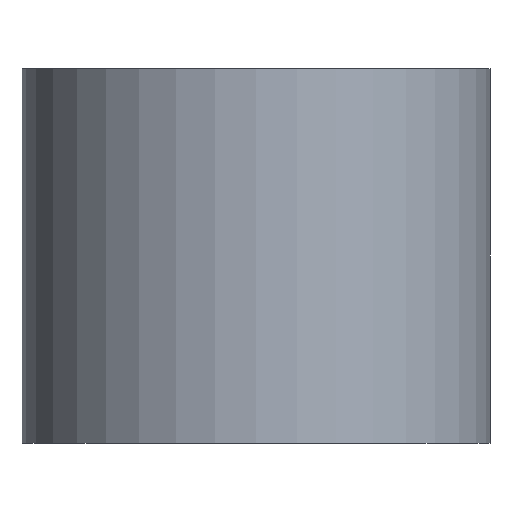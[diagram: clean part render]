
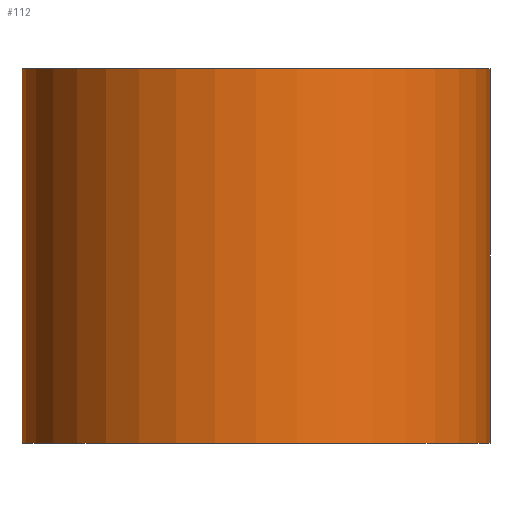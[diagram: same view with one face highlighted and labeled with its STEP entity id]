
A CAD part, front view. The second image highlights one B-rep face of the part: STEP entity #112.
In plain terms, the highlighted cylindrical face has radius 10 mm (diameter 20 mm), a partial arc.
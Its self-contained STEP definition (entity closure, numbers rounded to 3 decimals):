
#112=ADVANCED_FACE('',(#125),#119,.T.);
#119=CYLINDRICAL_SURFACE('',#254,10.);
#125=FACE_OUTER_BOUND('',#135,.T.);
#135=EDGE_LOOP('',(#177,#178,#179,#180));
#149=CIRCLE('',#250,10.);
#151=CIRCLE('',#253,10.);
#177=ORIENTED_EDGE('',*,*,#221,.T.);
#178=ORIENTED_EDGE('',*,*,#222,.F.);
#179=ORIENTED_EDGE('',*,*,#223,.F.);
#180=ORIENTED_EDGE('',*,*,#219,.T.);
#203=VERTEX_POINT('',#344);
#204=VERTEX_POINT('',#345);
#205=VERTEX_POINT('',#349);
#206=VERTEX_POINT('',#351);
#219=EDGE_CURVE('',#203,#204,#149,.T.);
#221=EDGE_CURVE('',#204,#205,#231,.T.);
#222=EDGE_CURVE('',#206,#205,#151,.T.);
#223=EDGE_CURVE('',#203,#206,#232,.T.);
#231=LINE('',#348,#235);
#232=LINE('',#352,#236);
#235=VECTOR('',#298,1.);
#236=VECTOR('',#301,1.);
#250=AXIS2_PLACEMENT_3D('',#343,#292,#293);
#253=AXIS2_PLACEMENT_3D('',#350,#299,#300);
#254=AXIS2_PLACEMENT_3D('',#353,#302,#303);
#292=DIRECTION('',(0.,0.,1.));
#293=DIRECTION('',(0.,1.,0.));
#298=DIRECTION('',(0.,0.,1.));
#299=DIRECTION('',(0.,0.,1.));
#300=DIRECTION('',(0.,1.,0.));
#301=DIRECTION('',(0.,0.,1.));
#302=DIRECTION('',(0.,0.,1.));
#303=DIRECTION('',(0.,-1.,0.));
#343=CARTESIAN_POINT('',(0.,0.,-16.));
#344=CARTESIAN_POINT('',(-10.,0.,-16.));
#345=CARTESIAN_POINT('',(10.,0.,-16.));
#348=CARTESIAN_POINT('',(10.,0.,0.));
#349=CARTESIAN_POINT('',(10.,0.,0.));
#350=CARTESIAN_POINT('',(0.,0.,0.));
#351=CARTESIAN_POINT('',(-10.,0.,0.));
#352=CARTESIAN_POINT('',(-10.,0.,0.));
#353=CARTESIAN_POINT('',(0.,0.,-16.));
